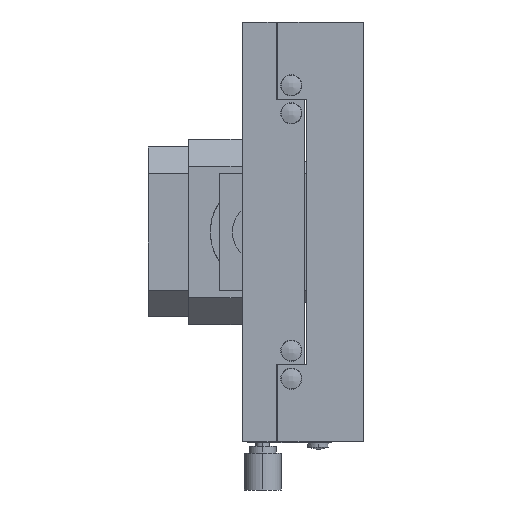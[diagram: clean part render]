
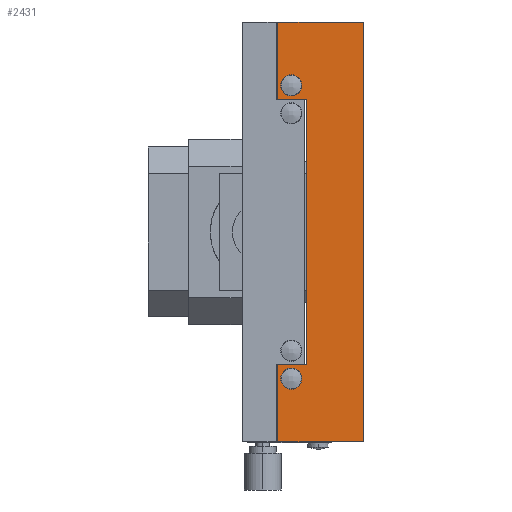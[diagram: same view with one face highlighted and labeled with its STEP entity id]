
A CAD part, left-side view. The second image highlights one B-rep face of the part: STEP entity #2431.
In plain terms, the highlighted planar face has unit normal (-1, 0, 0) as drawn and (1, 0, 0) by its records, which use the part's own axes.
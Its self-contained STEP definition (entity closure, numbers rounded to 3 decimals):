
#628 = EDGE_CURVE ( 'NONE', #11909, #11910, #7842, .T. ) ;
#632 = EDGE_CURVE ( 'NONE', #11913, #11914, #7844, .T. ) ;
#2064 = VERTEX_POINT ( 'NONE', #8735 ) ;
#2065 = VERTEX_POINT ( 'NONE', #8736 ) ;
#2067 = VERTEX_POINT ( 'NONE', #8738 ) ;
#2068 = VERTEX_POINT ( 'NONE', #8739 ) ;
#2318 = EDGE_CURVE ( 'NONE', #2065, #2064, #10267, .T. ) ;
#2338 = EDGE_CURVE ( 'NONE', #2067, #2064, #10334, .T. ) ;
#2339 = EDGE_CURVE ( 'NONE', #2468, #2067, #10337, .T. ) ;
#2340 = EDGE_CURVE ( 'NONE', #2462, #2468, #10340, .T. ) ;
#2341 = EDGE_CURVE ( 'NONE', #2068, #2462, #10343, .T. ) ;
#2342 = EDGE_CURVE ( 'NONE', #2469, #2068, #10346, .T. ) ;
#2343 = EDGE_CURVE ( 'NONE', #2461, #2469, #10349, .T. ) ;
#2344 = EDGE_CURVE ( 'NONE', #2461, #2065, #10352, .T. ) ;
#2345 = EDGE_CURVE ( 'NONE', #11910, #11909, #8282, .T. ) ;
#2346 = EDGE_CURVE ( 'NONE', #11914, #11913, #8283, .T. ) ;
#2431 = ADVANCED_FACE ( 'NONE', ( #10742, #10738, #10744 ), #10745, .F. ) ;
#2461 = VERTEX_POINT ( 'NONE', #10878 ) ;
#2462 = VERTEX_POINT ( 'NONE', #10885 ) ;
#2468 = VERTEX_POINT ( 'NONE', #10879 ) ;
#2469 = VERTEX_POINT ( 'NONE', #10893 ) ;
#2588 = ORIENTED_EDGE ( 'NONE', *, *, #2318, .T. ) ;
#2589 = ORIENTED_EDGE ( 'NONE', *, *, #2338, .F. ) ;
#2590 = ORIENTED_EDGE ( 'NONE', *, *, #2339, .F. ) ;
#2591 = ORIENTED_EDGE ( 'NONE', *, *, #2340, .F. ) ;
#2592 = ORIENTED_EDGE ( 'NONE', *, *, #2341, .F. ) ;
#2593 = ORIENTED_EDGE ( 'NONE', *, *, #2342, .F. ) ;
#2594 = ORIENTED_EDGE ( 'NONE', *, *, #2343, .F. ) ;
#2595 = ORIENTED_EDGE ( 'NONE', *, *, #2344, .T. ) ;
#2596 = ORIENTED_EDGE ( 'NONE', *, *, #2345, .F. ) ;
#2597 = ORIENTED_EDGE ( 'NONE', *, *, #628, .F. ) ;
#2598 = ORIENTED_EDGE ( 'NONE', *, *, #2346, .F. ) ;
#2599 = ORIENTED_EDGE ( 'NONE', *, *, #632, .F. ) ;
#2900 = EDGE_LOOP ( 'NONE', ( #2588, #2589, #2590, #2591, #2592, #2593, #2594, #2595 ) ) ;
#2909 = EDGE_LOOP ( 'NONE', ( #2596, #2597 ) ) ;
#2912 = EDGE_LOOP ( 'NONE', ( #2598, #2599 ) ) ;
#7428 = CARTESIAN_POINT ( 'NONE',  ( 75., -43.65, 21.5 ) ) ;
#7429 = DIRECTION ( 'NONE',  ( 1., 0., 0. ) ) ;
#7430 = DIRECTION ( 'NONE',  ( 0., 1., 0. ) ) ;
#7471 = CARTESIAN_POINT ( 'NONE',  ( 75., 43.65, 21.5 ) ) ;
#7472 = DIRECTION ( 'NONE',  ( 1., 0., 0. ) ) ;
#7473 = DIRECTION ( 'NONE',  ( 0., 1., 0. ) ) ;
#7842 = CIRCLE ( 'NONE', #7843, 3.15 ) ;
#7843 = AXIS2_PLACEMENT_3D ( 'NONE', #7428, #7429, #7430 ) ;
#7844 = CIRCLE ( 'NONE', #7847, 3.15 ) ;
#7847 = AXIS2_PLACEMENT_3D ( 'NONE', #7471, #7472, #7473 ) ;
#8246 = VECTOR ( 'NONE', #10278, 1000. ) ;
#8275 = VECTOR ( 'NONE', #10336, 1000. ) ;
#8276 = VECTOR ( 'NONE', #10339, 1000. ) ;
#8277 = VECTOR ( 'NONE', #10342, 1000. ) ;
#8278 = VECTOR ( 'NONE', #10345, 1000. ) ;
#8279 = VECTOR ( 'NONE', #10348, 1000. ) ;
#8280 = VECTOR ( 'NONE', #10351, 1000. ) ;
#8281 = VECTOR ( 'NONE', #10354, 1000. ) ;
#8282 = CIRCLE ( 'NONE', #8284, 3.15 ) ;
#8283 = CIRCLE ( 'NONE', #8286, 3.15 ) ;
#8284 = AXIS2_PLACEMENT_3D ( 'NONE', #10357, #10358, #10359 ) ;
#8286 = AXIS2_PLACEMENT_3D ( 'NONE', #10362, #10363, #10364 ) ;
#8735 = CARTESIAN_POINT ( 'NONE',  ( 75., 62.5, 0. ) ) ;
#8736 = CARTESIAN_POINT ( 'NONE',  ( 75., -62.5, 0. ) ) ;
#8738 = CARTESIAN_POINT ( 'NONE',  ( 75., 62.5, 25.5 ) ) ;
#8739 = CARTESIAN_POINT ( 'NONE',  ( 75., -39.5, 17. ) ) ;
#10267 = LINE ( 'NONE', #10277, #8246 ) ;
#10277 = CARTESIAN_POINT ( 'NONE',  ( 75., -62.5, 0. ) ) ;
#10278 = DIRECTION ( 'NONE',  ( 0., 1., 0. ) ) ;
#10334 = LINE ( 'NONE', #10335, #8275 ) ;
#10335 = CARTESIAN_POINT ( 'NONE',  ( 75., 62.5, 8. ) ) ;
#10336 = DIRECTION ( 'NONE',  ( 0., 0., -1. ) ) ;
#10337 = LINE ( 'NONE', #10338, #8276 ) ;
#10338 = CARTESIAN_POINT ( 'NONE',  ( 75., 62.5, 25.5 ) ) ;
#10339 = DIRECTION ( 'NONE',  ( 0., 1., 0. ) ) ;
#10340 = LINE ( 'NONE', #10341, #8277 ) ;
#10341 = CARTESIAN_POINT ( 'NONE',  ( 75., 39.5, 17. ) ) ;
#10342 = DIRECTION ( 'NONE',  ( 0., 0., 1. ) ) ;
#10343 = LINE ( 'NONE', #10344, #8278 ) ;
#10344 = CARTESIAN_POINT ( 'NONE',  ( 75., -40., 17. ) ) ;
#10345 = DIRECTION ( 'NONE',  ( 0., 1., 0. ) ) ;
#10346 = LINE ( 'NONE', #10347, #8279 ) ;
#10347 = CARTESIAN_POINT ( 'NONE',  ( 75., -39.5, 17. ) ) ;
#10348 = DIRECTION ( 'NONE',  ( 0., 0., -1. ) ) ;
#10349 = LINE ( 'NONE', #10350, #8280 ) ;
#10350 = CARTESIAN_POINT ( 'NONE',  ( 75., -62.5, 25.5 ) ) ;
#10351 = DIRECTION ( 'NONE',  ( 0., 1., 0. ) ) ;
#10352 = LINE ( 'NONE', #10353, #8281 ) ;
#10353 = CARTESIAN_POINT ( 'NONE',  ( 75., -62.5, 8. ) ) ;
#10354 = DIRECTION ( 'NONE',  ( 0., 0., -1. ) ) ;
#10357 = CARTESIAN_POINT ( 'NONE',  ( 75., -43.65, 21.5 ) ) ;
#10358 = DIRECTION ( 'NONE',  ( 1., 0., 0. ) ) ;
#10359 = DIRECTION ( 'NONE',  ( 0., 1., 0. ) ) ;
#10362 = CARTESIAN_POINT ( 'NONE',  ( 75., 43.65, 21.5 ) ) ;
#10363 = DIRECTION ( 'NONE',  ( 1., 0., 0. ) ) ;
#10364 = DIRECTION ( 'NONE',  ( 0., 1., 0. ) ) ;
#10730 = DIRECTION ( 'NONE',  ( -1., 0., 0. ) ) ;
#10738 = FACE_BOUND ( 'NONE', #2909, .T. ) ;
#10741 = CARTESIAN_POINT ( 'NONE',  ( 75., -62.5, 8. ) ) ;
#10742 = FACE_OUTER_BOUND ( 'NONE', #2900, .T. ) ;
#10744 = FACE_BOUND ( 'NONE', #2912, .T. ) ;
#10745 = PLANE ( 'NONE',  #11336 ) ;
#10747 = DIRECTION ( 'NONE',  ( 0., -1., 0. ) ) ;
#10878 = CARTESIAN_POINT ( 'NONE',  ( 75., -62.5, 25.5 ) ) ;
#10879 = CARTESIAN_POINT ( 'NONE',  ( 75., 39.5, 25.5 ) ) ;
#10885 = CARTESIAN_POINT ( 'NONE',  ( 75., 39.5, 17. ) ) ;
#10893 = CARTESIAN_POINT ( 'NONE',  ( 75., -39.5, 25.5 ) ) ;
#11074 = CARTESIAN_POINT ( 'NONE',  ( 75., -46.8, 21.5 ) ) ;
#11075 = CARTESIAN_POINT ( 'NONE',  ( 75., -40.5, 21.5 ) ) ;
#11078 = CARTESIAN_POINT ( 'NONE',  ( 75., 46.8, 21.5 ) ) ;
#11079 = CARTESIAN_POINT ( 'NONE',  ( 75., 40.5, 21.5 ) ) ;
#11336 = AXIS2_PLACEMENT_3D ( 'NONE', #10741, #10730, #10747 ) ;
#11909 = VERTEX_POINT ( 'NONE', #11074 ) ;
#11910 = VERTEX_POINT ( 'NONE', #11075 ) ;
#11913 = VERTEX_POINT ( 'NONE', #11078 ) ;
#11914 = VERTEX_POINT ( 'NONE', #11079 ) ;
